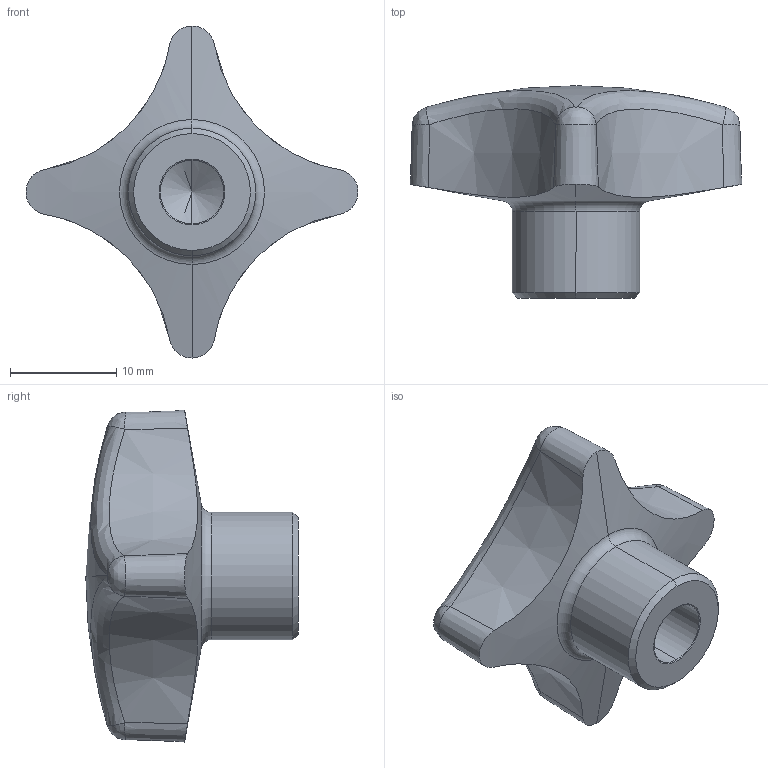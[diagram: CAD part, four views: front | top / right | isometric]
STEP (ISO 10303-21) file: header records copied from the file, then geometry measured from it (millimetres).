
FILE_DESCRIPTION (( 'STEP AP214' ), '1' );
FILE_NAME ('6335-AL-32-B6-C-MT.step', '2023-03-29T06:57:06', ( '' ), ( '' ), 'SwSTEP 2.0', 'SolidWorks 2022', '' );
FILE_SCHEMA (( 'AUTOMOTIVE_DESIGN' ));
Length unit declared in the file: millimetre
Products named in the file (1): 6335-AL-32-B6-C-MT
Bounding box: 31.25 x 20 x 31.25 mm (x, y, z)
Volume: 4335.4 mm3; surface area: 2100.2 mm2
Topology: 1 solids, 1 shells, 36 faces, 82 edges, 48 vertices
Faces by surface type: cone 16, bspline 8, cylinder 6, torus 2, sphere 2, plane 2
Entity records: 2010 total; most frequent: CARTESIAN_POINT 1221, ORIENTED_EDGE 160, DIRECTION 140, EDGE_CURVE 80, AXIS2_PLACEMENT_3D 59, VERTEX_POINT 48, EDGE_LOOP 38, ADVANCED_FACE 36
